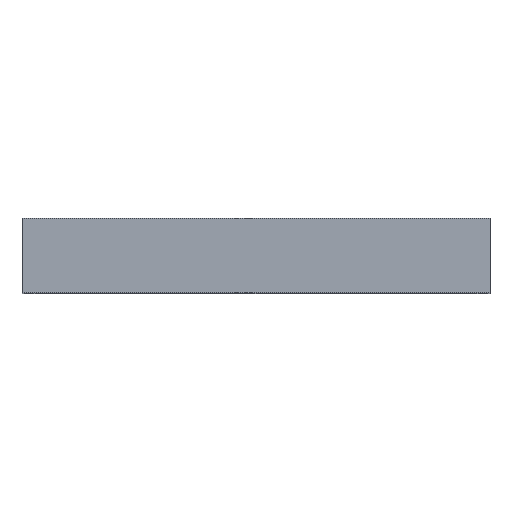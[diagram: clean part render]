
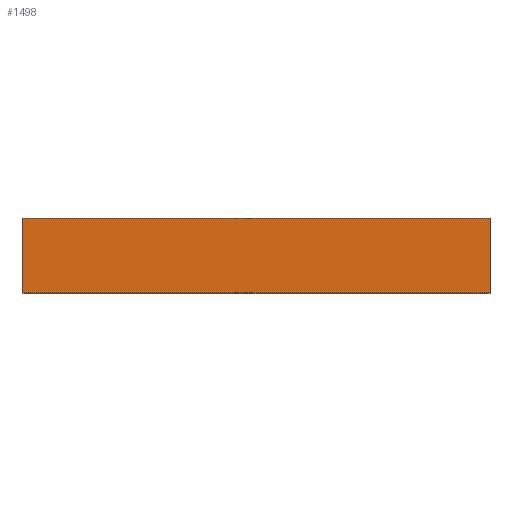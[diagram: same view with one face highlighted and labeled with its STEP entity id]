
A CAD part, top view. The second image highlights one B-rep face of the part: STEP entity #1498.
In plain terms, the highlighted planar face has unit normal (0, 0, 1).
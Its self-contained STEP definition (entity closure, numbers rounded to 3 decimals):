
#77 = LINE ( 'NONE', #947, #475 ) ;
#79 = VECTOR ( 'NONE', #938, 1000. ) ;
#80 = LINE ( 'NONE', #937, #79 ) ;
#85 = VECTOR ( 'NONE', #932, 1000. ) ;
#86 = LINE ( 'NONE', #931, #85 ) ;
#232 = EDGE_LOOP ( 'NONE', ( #500, #490, #489, #296 ) ) ;
#296 = ORIENTED_EDGE ( 'NONE', *, *, #612, .T. ) ;
#412 = VECTOR ( 'NONE', #956, 1000. ) ;
#426 = LINE ( 'NONE', #955, #412 ) ;
#475 = VECTOR ( 'NONE', #950, 1000. ) ;
#489 = ORIENTED_EDGE ( 'NONE', *, *, #600, .F. ) ;
#490 = ORIENTED_EDGE ( 'NONE', *, *, #609, .F. ) ;
#500 = ORIENTED_EDGE ( 'NONE', *, *, #603, .T. ) ;
#600 = EDGE_CURVE ( 'NONE', #788, #766, #86, .T. ) ;
#603 = EDGE_CURVE ( 'NONE', #828, #826, #80, .T. ) ;
#609 = EDGE_CURVE ( 'NONE', #766, #826, #77, .T. ) ;
#612 = EDGE_CURVE ( 'NONE', #788, #828, #426, .T. ) ;
#718 = AXIS2_PLACEMENT_3D ( 'NONE', #1348, #1354, #1355 ) ;
#766 = VERTEX_POINT ( 'NONE', #1143 ) ;
#788 = VERTEX_POINT ( 'NONE', #1165 ) ;
#826 = VERTEX_POINT ( 'NONE', #1203 ) ;
#828 = VERTEX_POINT ( 'NONE', #1205 ) ;
#931 = CARTESIAN_POINT ( 'NONE',  ( -204., 65., 239.5 ) ) ;
#932 = DIRECTION ( 'NONE',  ( 1., 0., 0. ) ) ;
#937 = CARTESIAN_POINT ( 'NONE',  ( -204., 0., 239.5 ) ) ;
#938 = DIRECTION ( 'NONE',  ( 1., 0., 0. ) ) ;
#947 = CARTESIAN_POINT ( 'NONE',  ( 204., 65., 239.5 ) ) ;
#950 = DIRECTION ( 'NONE',  ( 0., -1., 0. ) ) ;
#955 = CARTESIAN_POINT ( 'NONE',  ( -204., 65., 239.5 ) ) ;
#956 = DIRECTION ( 'NONE',  ( 0., -1., 0. ) ) ;
#1143 = CARTESIAN_POINT ( 'NONE',  ( 204., 65., 239.5 ) ) ;
#1165 = CARTESIAN_POINT ( 'NONE',  ( -204., 65., 239.5 ) ) ;
#1203 = CARTESIAN_POINT ( 'NONE',  ( 204., 0., 239.5 ) ) ;
#1205 = CARTESIAN_POINT ( 'NONE',  ( -204., 0., 239.5 ) ) ;
#1345 = PLANE ( 'NONE',  #718 ) ;
#1348 = CARTESIAN_POINT ( 'NONE',  ( -204., 65., 239.5 ) ) ;
#1354 = DIRECTION ( 'NONE',  ( 0., 0., -1. ) ) ;
#1355 = DIRECTION ( 'NONE',  ( -1., 0., 0. ) ) ;
#1451 = FACE_OUTER_BOUND ( 'NONE', #232, .T. ) ;
#1498 = ADVANCED_FACE ( 'NONE', ( #1451 ), #1345, .F. ) ;
